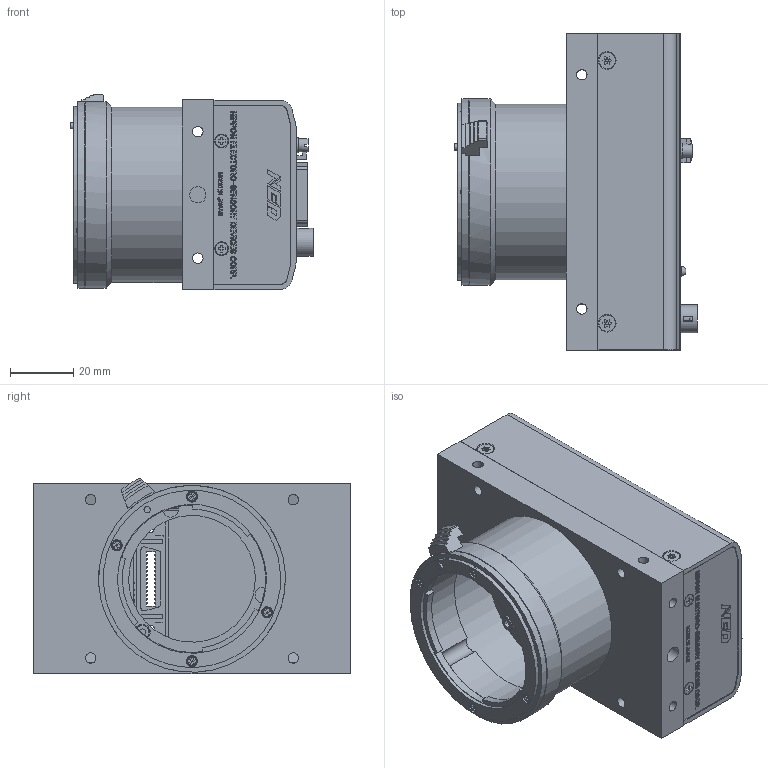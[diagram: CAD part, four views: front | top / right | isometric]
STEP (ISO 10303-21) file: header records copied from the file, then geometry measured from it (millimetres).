
FILE_DESCRIPTION (( 'STEP AP203' ), '1' );
FILE_NAME ('C7-1019-00-46／RCDK2K20CL.STEP', '2021-06-14T04:31:59', ( '' ), ( '' ), 'SwSTEP 2.0', 'SolidWorks 2020', '' );
FILE_SCHEMA (( 'CONFIG_CONTROL_DESIGN' ));
Products named in the file (1): C7-1019-00-46／RCDK2K20CL
Bounding box: 76.69 x 100 x 61.8 mm (x, y, z)
Surface area: 48097.8 mm2 (no closed solid volume)
Topology: 0 solids, 161 shells, 2028 faces, 13334 edges, 11115 vertices
Faces by surface type: plane 1446, bspline 416, cylinder 141, cone 20, torus 4, sphere 1
Full cylindrical faces by diameter (mm): 0.219 x1, 0.5 x6, 0.8 x1, 1 x4, 2 x1, 2.261 x2, 3.1 x1, 3.3 x12, 3.5 x5, 4 x4, 4.1 x2, 4.5 x1, 4.8 x2, 5 x1, 5.105 x1, 8.85 x1, 11 x1, 11.2 x1, 47 x1, 51.5 x1, 55.5 x1, 56 x1, 59 x2
Entity records: 180002 total; most frequent: CARTESIAN_POINT 94112, ORIENTED_EDGE 16590, EDGE_CURVE 13251, DIRECTION 11994, VERTEX_POINT 11102, LINE 7900, VECTOR 7900, B_SPLINE_CURVE_WITH_KNOTS 4917
